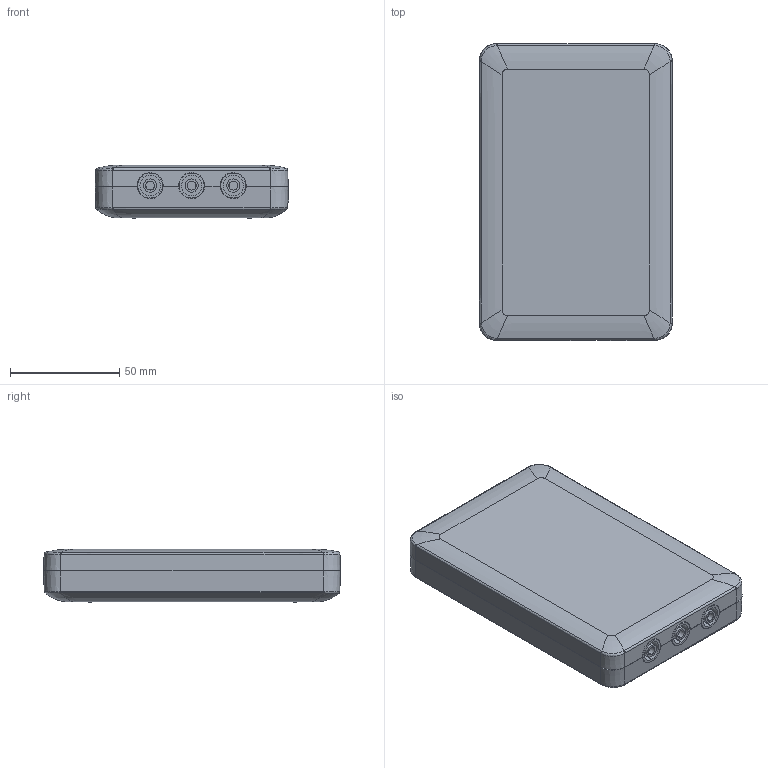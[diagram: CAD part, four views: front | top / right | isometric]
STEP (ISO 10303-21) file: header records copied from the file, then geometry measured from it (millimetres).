
FILE_DESCRIPTION((''),'2;1');
FILE_NAME('CU_MYDAQ','2011-10-28T',('dkendric'),(''),'PRO/ENGINEER BY PARAMETRIC TECHNOLOGY CORPORATION, 2010230','PRO/ENGINEER BY PARAMETRIC TECHNOLOGY CORPORATION, 2010230','');
FILE_SCHEMA(('CONFIG_CONTROL_DESIGN'));
Products named in the file (1): CU_MYDAQ
Bounding box: 88.76 x 136.27 x 24.52 mm (x, y, z)
Volume: 96738.1 mm3; surface area: 103043.2 mm2
Topology: 5 solids, 5 shells, 3074 faces, 8100 edges, 5083 vertices
Faces by surface type: plane 1596, cylinder 670, bspline 472, cone 157, sphere 112, torus 67
Entity records: 122071 total; most frequent: CARTESIAN_POINT 49185, ORIENTED_EDGE 16188, DIRECTION 13698, EDGE_CURVE 8094, VERTEX_POINT 5083, VECTOR 4928, LINE 4928, AXIS2_PLACEMENT_3D 4385
